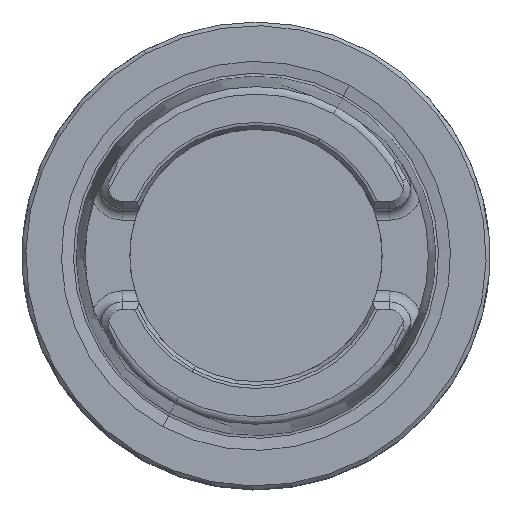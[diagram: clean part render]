
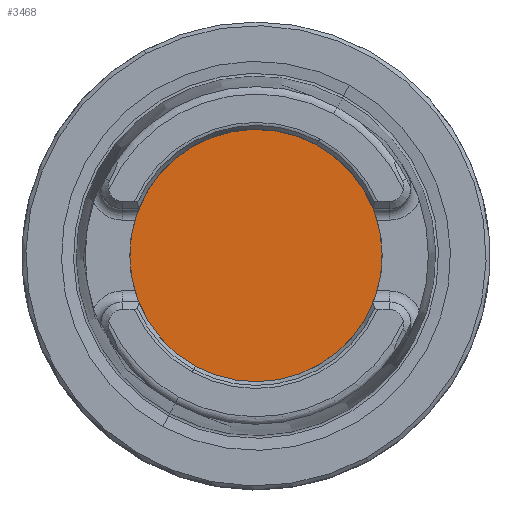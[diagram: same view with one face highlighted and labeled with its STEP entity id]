
A CAD part, top view. The second image highlights one B-rep face of the part: STEP entity #3468.
In plain terms, the highlighted planar face has unit normal (0, 0, 1).
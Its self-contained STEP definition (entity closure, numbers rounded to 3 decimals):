
#3448=AXIS2_PLACEMENT_3D('Plane Axis2P3D',#3445,#3446,#3447) ;
#3452=AXIS2_PLACEMENT_3D('Circle Axis2P3D',#3450,#3451,$) ;
#3461=AXIS2_PLACEMENT_3D('Circle Axis2P3D',#3459,#3460,$) ;
#3445=CARTESIAN_POINT('Axis2P3D Location',(0.,-15.75,20.)) ;
#3450=CARTESIAN_POINT('Axis2P3D Location',(0.,0.,20.)) ;
#3454=CARTESIAN_POINT('Vertex',(-8.15,-14.919,20.)) ;
#3456=CARTESIAN_POINT('Vertex',(8.15,14.919,20.)) ;
#3459=CARTESIAN_POINT('Axis2P3D Location',(0.,0.,20.)) ;
#3446=DIRECTION('Axis2P3D Direction',(0.,0.,-1.)) ;
#3447=DIRECTION('Axis2P3D XDirection',(-1.,0.,0.)) ;
#3451=DIRECTION('Axis2P3D Direction',(0.,0.,-1.)) ;
#3460=DIRECTION('Axis2P3D Direction',(0.,0.,-1.)) ;
#3465=ORIENTED_EDGE('',*,*,#3458,.T.) ;
#3466=ORIENTED_EDGE('',*,*,#3463,.T.) ;
#3468=ADVANCED_FACE('NO_CUT',(#3467),#3449,.F.) ;
#3453=CIRCLE('generated circle',#3452,17.) ;
#3462=CIRCLE('generated circle',#3461,17.) ;
#3458=EDGE_CURVE('',#3455,#3457,#3453,.F.) ;
#3463=EDGE_CURVE('',#3457,#3455,#3462,.F.) ;
#3464=EDGE_LOOP('',(#3465,#3466)) ;
#3467=FACE_OUTER_BOUND('',#3464,.T.) ;
#3449=PLANE('',#3448) ;
#3455=VERTEX_POINT('',#3454) ;
#3457=VERTEX_POINT('',#3456) ;
